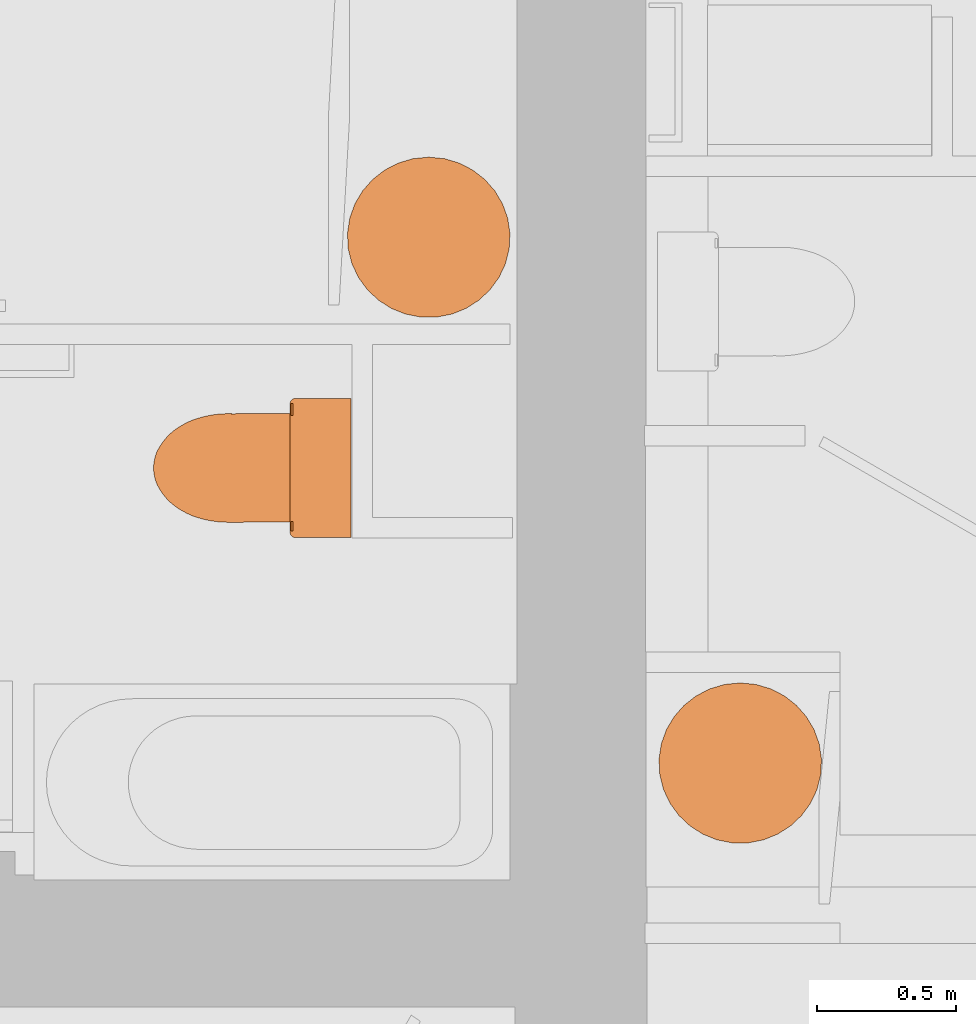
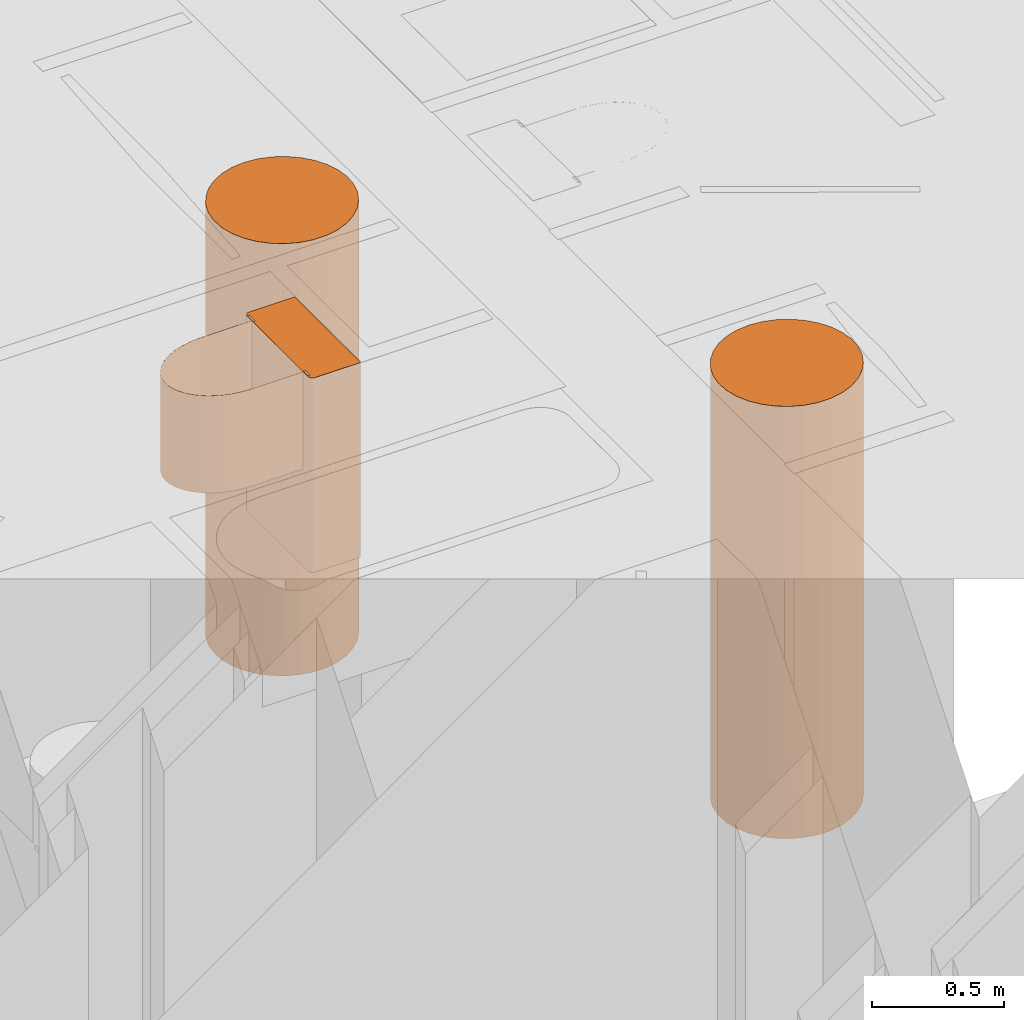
# Not in any storey, part 15 of 22: 3 proxies.
"""IFC4 model written with IfcOpenShell, lengths in metres."""

from ifc_helpers import new_model, si_unit, direction, origin_with_axes, place, context, subcontext, project, faceted_brep, element, save


model = new_model("IFC4")

# Units and contexts
model_context = context("Model", 3, precision=1e-05, world=origin_with_axes(), true_north=direction((1.0, 0.0)))
body_context = subcontext(model_context, "Body", "Model", "MODEL_VIEW")
ifc_project = project(units=[si_unit("LENGTHUNIT", "METRE"), si_unit("AREAUNIT", "SQUARE_METRE"), si_unit("VOLUMEUNIT", "CUBIC_METRE"), si_unit("MASSUNIT", "GRAM", prefix="KILO"), si_unit("TIMEUNIT", "SECOND"), si_unit("PLANEANGLEUNIT", "RADIAN"), si_unit("SOLIDANGLEUNIT", "STERADIAN")], contexts=[model_context])

# Proxies
placement = place(None, origin_with_axes())
element("IfcBuildingElementProxy", 1, at=placement, Name="ECS", PredefinedType="NOTDEFINED", context=body_context, shape_type="Brep", body=[
    faceted_brep([(147.761175, 26.340482, 2.31), (147.818779, 26.340482, 2.31), (147.87395, 26.351348, 2.31), (147.924956, 26.372034, 2.31), (147.970694, 26.401451, 2.31), (148.010058, 26.438509, 2.31), (148.041944, 26.482117, 2.31), (148.065247, 26.531186, 2.31), (148.078863, 26.584625, 2.31), (148.081693, 26.641191, 2.31), (148.073335, 26.696407, 2.31), (148.054737, 26.747797, 2.31), (148.027005, 26.794272, 2.31), (147.991242, 26.834741, 2.31), (147.948553, 26.868114, 2.31), (147.900043, 26.893302, 2.31), (147.846816, 26.909214, 2.31), (147.789977, 26.914761, 2.31), (147.733138, 26.909214, 2.31), (147.679911, 26.893302, 2.31), (147.631401, 26.868114, 2.31), (147.588712, 26.834741, 2.31), (147.552949, 26.794272, 2.31), (147.525217, 26.747797, 2.31), (147.506619, 26.696407, 2.31), (147.49826, 26.641191, 2.31), (147.501091, 26.584625, 2.31), (147.514707, 26.531186, 2.31), (147.53801, 26.482117, 2.31), (147.569896, 26.438509, 2.31), (147.60926, 26.401451, 2.31), (147.654997, 26.372034, 2.31), (147.706004, 26.351348, 2.31), (147.818779, 26.340482, 0.31), (147.761175, 26.340482, 0.31), (147.706004, 26.351348, 0.31), (147.654997, 26.372034, 0.31), (147.60926, 26.401451, 0.31), (147.569896, 26.438509, 0.31), (147.53801, 26.482117, 0.31), (147.514707, 26.531186, 0.31), (147.501091, 26.584625, 0.31), (147.49826, 26.641191, 0.31), (147.506619, 26.696407, 0.31), (147.525217, 26.747797, 0.31), (147.552949, 26.794272, 0.31), (147.588712, 26.834741, 0.31), (147.631401, 26.868114, 0.31), (147.679911, 26.893302, 0.31), (147.733138, 26.909214, 0.31), (147.789977, 26.914761, 0.31), (147.846816, 26.909214, 0.31), (147.900043, 26.893302, 0.31), (147.948553, 26.868114, 0.31), (147.991242, 26.834741, 0.31), (148.027005, 26.794272, 0.31), (148.054737, 26.747797, 0.31), (148.073335, 26.696407, 0.31), (148.081693, 26.641191, 0.31), (148.078863, 26.584625, 0.31), (148.065247, 26.531186, 0.31), (148.041944, 26.482117, 0.31), (148.010058, 26.438509, 0.31), (147.970694, 26.401451, 0.31), (147.924956, 26.372034, 0.31), (147.87395, 26.351348, 0.31)], [[[0, 1, 2, 3, 4, 5, 6, 7, 8, 9, 10, 11, 12, 13, 14, 15, 16, 17, 18, 19, 20, 21, 22, 23, 24, 25, 26, 27, 28, 29, 30, 31, 32]], [[33, 34, 35, 36, 37, 38, 39, 40, 41, 42, 43, 44, 45, 46, 47, 48, 49, 50, 51, 52, 53, 54, 55, 56, 57, 58, 59, 60, 61, 62, 63, 64, 65]], [[1, 0, 34, 33]], [[0, 32, 35, 34]], [[32, 31, 36, 35]], [[31, 30, 37, 36]], [[30, 29, 38, 37]], [[29, 28, 39, 38]], [[28, 27, 40, 39]], [[27, 26, 41, 40]], [[26, 25, 42, 41]], [[25, 24, 43, 42]], [[24, 23, 44, 43]], [[23, 22, 45, 44]], [[22, 21, 46, 45]], [[21, 20, 47, 46]], [[20, 19, 48, 47]], [[19, 18, 49, 48]], [[18, 17, 50, 49]], [[17, 16, 51, 50]], [[16, 15, 52, 51]], [[15, 14, 53, 52]], [[14, 13, 54, 53]], [[13, 12, 55, 54]], [[12, 11, 56, 55]], [[11, 10, 57, 56]], [[10, 9, 58, 57]], [[9, 8, 59, 58]], [[8, 7, 60, 59]], [[7, 6, 61, 60]], [[6, 5, 62, 61]], [[5, 4, 63, 62]], [[4, 3, 64, 63]], [[3, 2, 65, 64]], [[2, 1, 33, 65]]]),
])
element("IfcBuildingElementProxy", 2, at=placement, Name="Bloc WC", PredefinedType="NOTDEFINED", context=body_context, shape_type="AdvancedBrep", body=[
    faceted_brep([(147.511035, 25.54868, 2.31), (147.511035, 26.04665, 2.31), (147.511035, 26.048683, 2.31), (147.342053, 26.048689, 2.31), (147.310052, 26.048683, 2.31), (147.310052, 26.048513, 2.31), (147.308957, 26.048394, 2.31), (147.307871, 26.048208, 2.31), (147.306799, 26.047957, 2.31), (147.305744, 26.047641, 2.31), (147.30471, 26.047262, 2.31), (147.303701, 26.046821, 2.31), (147.302704, 26.046328, 2.31), (147.301735, 26.045782, 2.31), (147.300798, 26.045184, 2.31), (147.299894, 26.044535, 2.31), (147.299027, 26.043838, 2.31), (147.298199, 26.043096, 2.31), (147.297427, 26.04232, 2.31), (147.296701, 26.041501, 2.31), (147.296023, 26.040641, 2.31), (147.295397, 26.039744, 2.31), (147.294824, 26.038811, 2.31), (147.294305, 26.037847, 2.31), (147.293742, 26.036668, 2.31), (147.293255, 26.035455, 2.31), (147.292847, 26.034214, 2.31), (147.292519, 26.032948, 2.31), (147.292272, 26.031665, 2.31), (147.292018, 26.031665, 2.31), (147.292018, 26.028617, 2.31), (147.292018, 25.993654, 2.31), (147.292018, 25.604219, 2.31), (147.292022, 25.568662, 2.31), (147.292052, 25.567434, 2.31), (147.29216, 25.566211, 2.31), (147.292347, 25.564997, 2.31), (147.292612, 25.563798, 2.31), (147.292954, 25.562618, 2.31), (147.293371, 25.561463, 2.31), (147.29384, 25.56034, 2.31), (147.294379, 25.559249, 2.31), (147.294986, 25.558194, 2.31), (147.295658, 25.55718, 2.31), (147.296392, 25.55621, 2.31), (147.297186, 25.555288, 2.31), (147.298037, 25.554393, 2.31), (147.298941, 25.553552, 2.31), (147.299896, 25.552769, 2.31), (147.300897, 25.552047, 2.31), (147.301941, 25.551387, 2.31), (147.303024, 25.550795, 2.31), (147.304137, 25.550283, 2.31), (147.30528, 25.549839, 2.31), (147.306446, 25.549464, 2.31), (147.307634, 25.549159, 2.31), (147.308837, 25.548927, 2.31), (147.310052, 25.54868, 2.31), (147.342053, 25.548677, 2.31), (147.294644, 25.606419, 2.31), (147.303109, 25.606419, 2.31), (147.303109, 25.597954, 2.31), (147.303109, 25.581022, 2.31), (147.303109, 25.572554, 2.31), (147.294644, 25.572554, 2.31), (147.303109, 25.987388, 2.31), (147.294644, 25.987388, 2.31), (147.294644, 26.029719, 2.31), (147.303109, 26.029719, 2.31), (147.303109, 26.021253, 2.31), (147.303109, 25.995854, 2.31), (147.08546, 25.993248, 2.31), (147.069702, 25.993654, 2.31), (147.082834, 25.993401, 2.31), (147.511035, 26.04665, 1.41), (147.511035, 25.54868, 1.41), (147.310052, 25.54868, 1.41), (147.308837, 25.548927, 1.41), (147.307634, 25.549159, 1.41), (147.306446, 25.549464, 1.41), (147.30528, 25.549839, 1.41), (147.304137, 25.550283, 1.41), (147.303024, 25.550795, 1.41), (147.301941, 25.551387, 1.41), (147.300897, 25.552047, 1.41), (147.299896, 25.552769, 1.41), (147.298941, 25.553552, 1.41), (147.298037, 25.554393, 1.41), (147.297186, 25.555288, 1.41), (147.296392, 25.55621, 1.41), (147.295658, 25.55718, 1.41), (147.294986, 25.558194, 1.41), (147.294379, 25.559249, 1.41), (147.29384, 25.56034, 1.41), (147.293371, 25.561463, 1.41), (147.292954, 25.562618, 1.41), (147.292612, 25.563798, 1.41), (147.292347, 25.564997, 1.41), (147.29216, 25.566211, 1.41), (147.292052, 25.567434, 1.41), (147.292022, 25.568662, 1.41), (147.292018, 26.028617, 1.41), (147.292018, 26.031665, 1.41), (147.292272, 26.031665, 1.41), (147.292519, 26.032948, 1.41), (147.292847, 26.034214, 1.41), (147.293255, 26.035455, 1.41), (147.293742, 26.036668, 1.41), (147.294305, 26.037847, 1.41), (147.294824, 26.038811, 1.41), (147.295397, 26.039744, 1.41), (147.296023, 26.040641, 1.41), (147.296701, 26.041501, 1.41), (147.297427, 26.04232, 1.41), (147.298199, 26.043096, 1.41), (147.299027, 26.043838, 1.41), (147.299894, 26.044535, 1.41), (147.300798, 26.045184, 1.41), (147.301735, 26.045782, 1.41), (147.302704, 26.046328, 1.41), (147.303701, 26.046821, 1.41), (147.30471, 26.047262, 1.41), (147.305744, 26.047641, 1.41), (147.306799, 26.047957, 1.41), (147.307871, 26.048208, 1.41), (147.308957, 26.048394, 1.41), (147.310052, 26.048513, 1.41), (147.310052, 26.048683, 1.41), (147.511035, 26.048683, 1.41), (147.086199, 25.993205, 1.86), (147.087201, 25.993147, 1.86), (147.095947, 25.992638, 1.86), (147.095947, 25.993654, 1.86), (147.292018, 25.993654, 1.86), (147.292018, 25.604219, 1.86), (147.083333, 25.603709, 1.86), (147.083223, 25.603709, 1.86), (147.083118, 25.603709, 1.86), (147.083016, 25.603709, 1.86), (147.082818, 25.603709, 1.86), (147.082617, 25.603709, 1.86), (147.082512, 25.603709, 1.86), (147.082402, 25.603709, 1.86), (147.068347, 25.603709, 1.86), (147.050846, 25.604134, 1.86), (147.033391, 25.605458, 1.86), (147.016027, 25.607682, 1.86), (146.99811, 25.610797, 1.86), (146.980458, 25.614812, 1.86), (146.963033, 25.619717, 1.86), (146.952169, 25.62297, 1.86), (146.941499, 25.626812, 1.86), (146.931056, 25.631232, 1.86), (146.920869, 25.636215, 1.86), (146.920024, 25.636643, 1.86), (146.906302, 25.643742, 1.86), (146.89305, 25.651681, 1.86), (146.880317, 25.660431, 1.86), (146.880064, 25.660686, 1.86), (146.871286, 25.667398, 1.86), (146.862894, 25.674586, 1.86), (146.854917, 25.682232, 1.86), (146.84738, 25.690312, 1.86), (146.847046, 25.690656, 1.86), (146.839822, 25.699338, 1.86), (146.833085, 25.708403, 1.86), (146.826853, 25.717822, 1.86), (146.821143, 25.727566, 1.86), (146.821056, 25.727651, 1.86), (146.820802, 25.727989, 1.86), (146.81774, 25.733255, 1.86), (146.814975, 25.738682, 1.86), (146.81252, 25.744257, 1.86), (146.810381, 25.74996, 1.86), (146.808568, 25.755775, 1.86), (146.807084, 25.761683, 1.86), (146.805301, 25.768887, 1.86), (146.803904, 25.776175, 1.86), (146.802901, 25.783528, 1.86), (146.802297, 25.790925, 1.86), (146.802091, 25.798343, 1.86), (146.802092, 25.799021, 1.86), (146.802297, 25.806439, 1.86), (146.802901, 25.813835, 1.86), (146.803904, 25.821188, 1.86), (146.805301, 25.828476, 1.86), (146.807089, 25.835678, 1.86), (146.80857, 25.841573, 1.86), (146.810382, 25.847375, 1.86), (146.812519, 25.853066, 1.86), (146.814973, 25.858626, 1.86), (146.817737, 25.86404, 1.86), (146.820802, 25.86929, 1.86), (146.821056, 25.869627, 1.86), (146.82114, 25.869795, 1.86), (146.826842, 25.879526, 1.86), (146.833071, 25.888928, 1.86), (146.839811, 25.897971, 1.86), (146.847042, 25.906626, 1.86), (146.847384, 25.906963, 1.86), (146.854918, 25.915066, 1.86), (146.862893, 25.922735, 1.86), (146.871284, 25.929946, 1.86), (146.880064, 25.936678, 1.86), (146.880318, 25.936846, 1.86), (146.893038, 25.945616, 1.86), (146.906289, 25.953561, 1.86), (146.920021, 25.960642, 1.86), (146.920871, 25.961059, 1.86), (146.931056, 25.966065, 1.86), (146.941498, 25.970508, 1.86), (146.952167, 25.974375, 1.86), (146.963031, 25.977654, 1.86), (146.980459, 25.982525, 1.86), (146.998111, 25.986508, 1.86), (147.015943, 25.98959, 1.86), (147.016028, 25.989675, 1.86), (147.033394, 25.991874, 1.86), (147.050848, 25.993203, 1.86), (147.068347, 25.993657, 1.86), (147.069067, 25.993205, 1.86), (147.069025, 25.993654, 1.86), (147.069702, 25.993654, 1.86), (147.08546, 25.993248, 1.86), (147.086199, 25.993205, 2.31), (147.087201, 25.993205, 2.31), (147.095947, 25.992638, 2.31), (147.095947, 25.993654, 2.31), (147.083333, 25.603709, 2.31), (147.083223, 25.603709, 2.31), (147.083118, 25.603709, 2.31), (147.083016, 25.603709, 2.31), (147.082818, 25.603709, 2.31), (147.082617, 25.603709, 2.31), (147.082512, 25.603709, 2.31), (147.082402, 25.603709, 2.31), (147.069702, 25.603709, 2.31), (147.069025, 25.603709, 2.31), (147.068347, 25.603709, 2.31), (147.050846, 25.604134, 2.31), (147.033391, 25.605458, 2.31), (147.016027, 25.607682, 2.31), (146.99811, 25.610797, 2.31), (146.980458, 25.614812, 2.31), (146.963033, 25.619717, 2.31), (146.952169, 25.62297, 2.31), (146.941499, 25.626812, 2.31), (146.931056, 25.631232, 2.31), (146.920869, 25.636215, 2.31), (146.920024, 25.636643, 2.31), (146.906302, 25.643742, 2.31), (146.89305, 25.651681, 2.31), (146.880317, 25.660431, 2.31), (146.880064, 25.660686, 2.31), (146.871286, 25.667398, 2.31), (146.862894, 25.674586, 2.31), (146.854917, 25.682232, 2.31), (146.84738, 25.690312, 2.31), (146.847046, 25.690656, 2.31), (146.839822, 25.699338, 2.31), (146.833085, 25.708403, 2.31), (146.826853, 25.717822, 2.31), (146.821143, 25.727566, 2.31), (146.821056, 25.727651, 2.31), (146.820802, 25.727989, 2.31), (146.81774, 25.733255, 2.31), (146.814975, 25.738682, 2.31), (146.81252, 25.744257, 2.31), (146.810381, 25.74996, 2.31), (146.808568, 25.755775, 2.31), (146.807084, 25.761683, 2.31), (146.805301, 25.768887, 2.31), (146.803904, 25.776175, 2.31), (146.802901, 25.783528, 2.31), (146.802297, 25.790925, 2.31), (146.802091, 25.798343, 2.31), (146.802092, 25.799021, 2.31), (146.802297, 25.806439, 2.31), (146.802901, 25.813835, 2.31), (146.803904, 25.821188, 2.31), (146.805301, 25.828476, 2.31), (146.807089, 25.835678, 2.31), (146.80857, 25.841573, 2.31), (146.810382, 25.847375, 2.31), (146.812519, 25.853066, 2.31), (146.814973, 25.858626, 2.31), (146.817737, 25.86404, 2.31), (146.820802, 25.86929, 2.31), (146.821056, 25.869627, 2.31), (146.82114, 25.869795, 2.31), (146.826842, 25.879526, 2.31), (146.833071, 25.888928, 2.31), (146.839811, 25.897971, 2.31), (146.847042, 25.906626, 2.31), (146.847384, 25.906963, 2.31), (146.854918, 25.915066, 2.31), (146.862893, 25.922735, 2.31), (146.871284, 25.929946, 2.31), (146.880064, 25.936678, 2.31), (146.880318, 25.936846, 2.31), (146.893038, 25.945616, 2.31), (146.906289, 25.953561, 2.31), (146.920021, 25.960642, 2.31), (146.920871, 25.961059, 2.31), (146.931056, 25.966065, 2.31), (146.941498, 25.970508, 2.31), (146.952167, 25.974375, 2.31), (146.963031, 25.977654, 2.31), (146.980459, 25.982525, 2.31), (146.998111, 25.986508, 2.31), (147.015943, 25.98959, 2.31), (147.016028, 25.989675, 2.31), (147.033394, 25.991874, 2.31), (147.050848, 25.993203, 2.31), (147.068347, 25.993657, 2.31), (147.069067, 25.993654, 2.31), (147.069067, 25.993205, 2.31)], [[[0, 1, 2, 3, 4, 5, 6, 7, 8, 9, 10, 11, 12, 13, 14, 15, 16, 17, 18, 19, 20, 21, 22, 23, 24, 25, 26, 27, 28, 29, 30, 31, 32, 33, 34, 35, 36, 37, 38, 39, 40, 41, 42, 43, 44, 45, 46, 47, 48, 49, 50, 51, 52, 53, 54, 55, 56, 57, 58], [59, 60, 61, 62, 63, 64], [65, 66, 67, 68, 69, 70]], [[71, 72, 73]], [[74, 75, 76, 77, 78, 79, 80, 81, 82, 83, 84, 85, 86, 87, 88, 89, 90, 91, 92, 93, 94, 95, 96, 97, 98, 99, 100, 101, 102, 103, 104, 105, 106, 107, 108, 109, 110, 111, 112, 113, 114, 115, 116, 117, 118, 119, 120, 121, 122, 123, 124, 125, 126, 127, 128]], [[1, 0, 75, 74]], [[0, 58, 57, 76, 75]], [[57, 56, 77, 76]], [[56, 55, 78, 77]], [[55, 54, 79, 78]], [[54, 53, 80, 79]], [[53, 52, 81, 80]], [[52, 51, 82, 81]], [[51, 50, 83, 82]], [[50, 49, 84, 83]], [[49, 48, 85, 84]], [[48, 47, 86, 85]], [[47, 46, 87, 86]], [[46, 45, 88, 87]], [[45, 44, 89, 88]], [[44, 43, 90, 89]], [[43, 42, 91, 90]], [[42, 41, 92, 91]], [[41, 40, 93, 92]], [[40, 39, 94, 93]], [[39, 38, 95, 94]], [[38, 37, 96, 95]], [[37, 36, 97, 96]], [[36, 35, 98, 97]], [[35, 34, 99, 98]], [[34, 33, 100, 99]], [[33, 32, 31, 30, 101, 100]], [[30, 29, 102, 101]], [[29, 28, 103, 102]], [[28, 27, 104, 103]], [[27, 26, 105, 104]], [[26, 25, 106, 105]], [[25, 24, 107, 106]], [[24, 23, 108, 107]], [[23, 22, 109, 108]], [[22, 21, 110, 109]], [[21, 20, 111, 110]], [[20, 19, 112, 111]], [[19, 18, 113, 112]], [[18, 17, 114, 113]], [[17, 16, 115, 114]], [[16, 15, 116, 115]], [[15, 14, 117, 116]], [[14, 13, 118, 117]], [[13, 12, 119, 118]], [[12, 11, 120, 119]], [[11, 10, 121, 120]], [[10, 9, 122, 121]], [[9, 8, 123, 122]], [[8, 7, 124, 123]], [[7, 6, 125, 124]], [[6, 5, 126, 125]], [[5, 4, 127, 126]], [[4, 3, 2, 128, 127]], [[2, 1, 74, 128]], [[60, 59, 64, 63, 62, 61]], [[66, 65, 70, 69, 68, 67]], [[129, 130, 131, 132, 133, 134, 135, 136, 137, 138, 139, 140, 141, 142, 143, 144, 145, 146, 147, 148, 149, 150, 151, 152, 153, 154, 155, 156, 157, 158, 159, 160, 161, 162, 163, 164, 165, 166, 167, 168, 169, 170, 171, 172, 173, 174, 175, 176, 177, 178, 179, 180, 181, 182, 183, 184, 185, 186, 187, 188, 189, 190, 191, 192, 193, 194, 195, 196, 197, 198, 199, 200, 201, 202, 203, 204, 205, 206, 207, 208, 209, 210, 211, 212, 213, 214, 215, 216, 217, 218, 219, 220, 221, 222, 223]], [[224, 225, 130, 129]], [[225, 226, 131, 130]], [[226, 227, 132, 131]], [[227, 31, 133, 132]], [[31, 32, 134, 133]], [[32, 228, 135, 134]], [[228, 229, 136, 135]], [[229, 230, 137, 136]], [[230, 231, 138, 137]], [[231, 232, 139, 138]], [[232, 233, 140, 139]], [[233, 234, 141, 140]], [[234, 235, 142, 141]], [[235, 236, 237, 238, 143, 142]], [[238, 239, 144, 143]], [[239, 240, 145, 144]], [[240, 241, 146, 145]], [[241, 242, 147, 146]], [[242, 243, 148, 147]], [[243, 244, 149, 148]], [[244, 245, 150, 149]], [[245, 246, 151, 150]], [[246, 247, 152, 151]], [[247, 248, 153, 152]], [[248, 249, 154, 153]], [[249, 250, 155, 154]], [[250, 251, 156, 155]], [[251, 252, 157, 156]], [[252, 253, 158, 157]], [[253, 254, 159, 158]], [[254, 255, 160, 159]], [[255, 256, 161, 160]], [[256, 257, 162, 161]], [[257, 258, 163, 162]], [[258, 259, 164, 163]], [[259, 260, 165, 164]], [[260, 261, 166, 165]], [[261, 262, 167, 166]], [[262, 263, 168, 167]], [[263, 264, 169, 168]], [[264, 265, 170, 169]], [[265, 266, 171, 170]], [[266, 267, 172, 171]], [[267, 268, 173, 172]], [[268, 269, 174, 173]], [[269, 270, 175, 174]], [[270, 271, 176, 175]], [[271, 272, 177, 176]], [[272, 273, 178, 177]], [[273, 274, 179, 178]], [[274, 275, 180, 179]], [[275, 276, 181, 180]], [[276, 277, 182, 181]], [[277, 278, 183, 182]], [[278, 279, 184, 183]], [[279, 280, 185, 184]], [[280, 281, 186, 185]], [[281, 282, 187, 186]], [[282, 283, 188, 187]], [[283, 284, 189, 188]], [[284, 285, 190, 189]], [[285, 286, 191, 190]], [[286, 287, 192, 191]], [[287, 288, 193, 192]], [[288, 289, 194, 193]], [[289, 290, 195, 194]], [[290, 291, 196, 195]], [[291, 292, 197, 196]], [[292, 293, 198, 197]], [[293, 294, 199, 198]], [[294, 295, 200, 199]], [[295, 296, 201, 200]], [[296, 297, 202, 201]], [[297, 298, 203, 202]], [[298, 299, 204, 203]], [[299, 300, 205, 204]], [[300, 301, 206, 205]], [[301, 302, 207, 206]], [[302, 303, 208, 207]], [[303, 304, 209, 208]], [[304, 305, 210, 209]], [[305, 306, 211, 210]], [[306, 307, 212, 211]], [[307, 308, 213, 212]], [[308, 309, 214, 213]], [[309, 310, 215, 214]], [[310, 311, 216, 215]], [[311, 312, 217, 216]], [[312, 313, 218, 217]], [[313, 314, 219, 218]], [[314, 315, 221, 219]], [[315, 316, 220, 221]], [[316, 315, 221, 220]], [[315, 72, 222, 221]], [[72, 71, 223, 222]], [[71, 224, 129, 223]]]),
])
element("IfcBuildingElementProxy", 3, at=placement, Name="ECS", PredefinedType="NOTDEFINED", context=body_context, shape_type="Brep", body=[
    faceted_brep([(148.879799, 24.452641, 2.31), (148.937403, 24.452641, 2.31), (148.992574, 24.463507, 2.31), (149.043581, 24.484193, 2.31), (149.089318, 24.51361, 2.31), (149.128682, 24.550668, 2.31), (149.160568, 24.594276, 2.31), (149.183871, 24.643345, 2.31), (149.197487, 24.696784, 2.31), (149.200318, 24.75335, 2.31), (149.191959, 24.808566, 2.31), (149.173361, 24.859956, 2.31), (149.145629, 24.906431, 2.31), (149.109866, 24.9469, 2.31), (149.067177, 24.980274, 2.31), (149.018667, 25.005462, 2.31), (148.96544, 25.021374, 2.31), (148.908601, 25.02692, 2.31), (148.851762, 25.021374, 2.31), (148.798535, 25.005462, 2.31), (148.750025, 24.980274, 2.31), (148.707336, 24.9469, 2.31), (148.671573, 24.906431, 2.31), (148.643841, 24.859956, 2.31), (148.625243, 24.808566, 2.31), (148.616884, 24.75335, 2.31), (148.619715, 24.696784, 2.31), (148.633331, 24.643345, 2.31), (148.656634, 24.594276, 2.31), (148.68852, 24.550668, 2.31), (148.727884, 24.51361, 2.31), (148.773621, 24.484193, 2.31), (148.824628, 24.463507, 2.31), (148.937403, 24.452641, 0.31), (148.879799, 24.452641, 0.31), (148.824628, 24.463507, 0.31), (148.773621, 24.484193, 0.31), (148.727884, 24.51361, 0.31), (148.68852, 24.550668, 0.31), (148.656634, 24.594276, 0.31), (148.633331, 24.643345, 0.31), (148.619715, 24.696784, 0.31), (148.616884, 24.75335, 0.31), (148.625243, 24.808566, 0.31), (148.643841, 24.859956, 0.31), (148.671573, 24.906431, 0.31), (148.707336, 24.9469, 0.31), (148.750025, 24.980274, 0.31), (148.798535, 25.005462, 0.31), (148.851762, 25.021374, 0.31), (148.908601, 25.02692, 0.31), (148.96544, 25.021374, 0.31), (149.018667, 25.005462, 0.31), (149.067177, 24.980274, 0.31), (149.109866, 24.9469, 0.31), (149.145629, 24.906431, 0.31), (149.173361, 24.859956, 0.31), (149.191959, 24.808566, 0.31), (149.200318, 24.75335, 0.31), (149.197487, 24.696784, 0.31), (149.183871, 24.643345, 0.31), (149.160568, 24.594276, 0.31), (149.128682, 24.550668, 0.31), (149.089318, 24.51361, 0.31), (149.043581, 24.484193, 0.31), (148.992574, 24.463507, 0.31)], [[[0, 1, 2, 3, 4, 5, 6, 7, 8, 9, 10, 11, 12, 13, 14, 15, 16, 17, 18, 19, 20, 21, 22, 23, 24, 25, 26, 27, 28, 29, 30, 31, 32]], [[33, 34, 35, 36, 37, 38, 39, 40, 41, 42, 43, 44, 45, 46, 47, 48, 49, 50, 51, 52, 53, 54, 55, 56, 57, 58, 59, 60, 61, 62, 63, 64, 65]], [[1, 0, 34, 33]], [[0, 32, 35, 34]], [[32, 31, 36, 35]], [[31, 30, 37, 36]], [[30, 29, 38, 37]], [[29, 28, 39, 38]], [[28, 27, 40, 39]], [[27, 26, 41, 40]], [[26, 25, 42, 41]], [[25, 24, 43, 42]], [[24, 23, 44, 43]], [[23, 22, 45, 44]], [[22, 21, 46, 45]], [[21, 20, 47, 46]], [[20, 19, 48, 47]], [[19, 18, 49, 48]], [[18, 17, 50, 49]], [[17, 16, 51, 50]], [[16, 15, 52, 51]], [[15, 14, 53, 52]], [[14, 13, 54, 53]], [[13, 12, 55, 54]], [[12, 11, 56, 55]], [[11, 10, 57, 56]], [[10, 9, 58, 57]], [[9, 8, 59, 58]], [[8, 7, 60, 59]], [[7, 6, 61, 60]], [[6, 5, 62, 61]], [[5, 4, 63, 62]], [[4, 3, 64, 63]], [[3, 2, 65, 64]], [[2, 1, 33, 65]]]),
])

save(model, "model.ifc")
